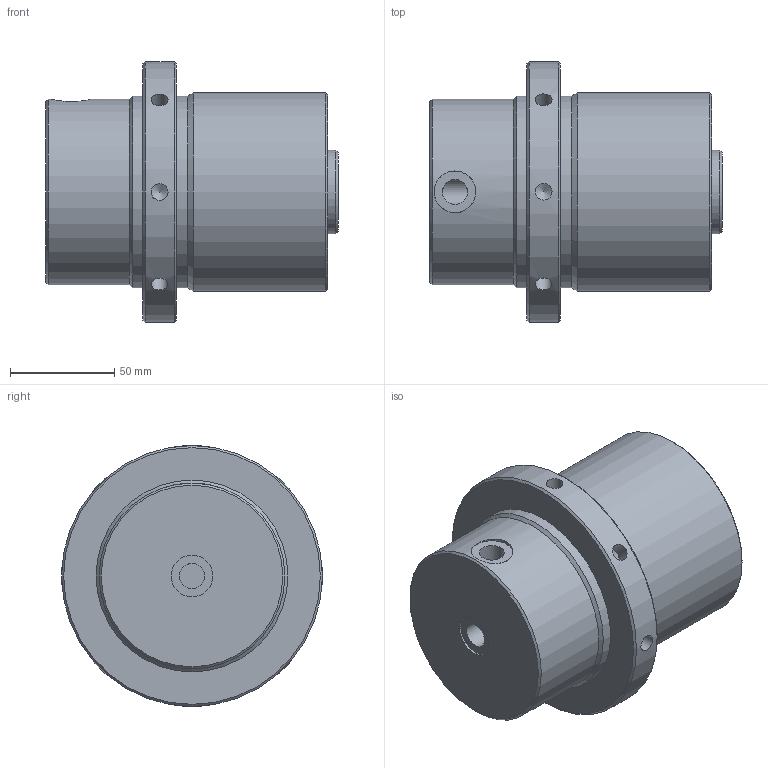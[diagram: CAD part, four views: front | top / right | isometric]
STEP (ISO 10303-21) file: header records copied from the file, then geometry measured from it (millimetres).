
FILE_DESCRIPTION( ( 'Unknown' ), '1' );
FILE_NAME( 'F:/JAKOB-STEP+IGES-Dateien/STEP-Dateien/ZSF/ZSF 6300.stp', 'Unknown', ( 'Unknown' ), ( 'Unknown' ), 'XStep 1.0', 'Unknown', ' ' );
FILE_SCHEMA( ( 'CONFIG_CONTROL_DESIGN' ) );
Length unit declared in the file: millimetre
Products named in the file (1): 1
Bounding box: 140 x 125 x 125 mm (x, y, z)
Volume: 961831 mm3; surface area: 74160.5 mm2
Topology: 1 solids, 1 shells, 44 faces, 109 edges, 70 vertices
Faces by surface type: cylinder 19, cone 17, plane 8
Full cylindrical faces by diameter (mm): 8 x8, 12 x2, 20 x2, 26.5 x1, 40 x1, 89 x1, 92 x2, 95 x1, 125 x1
Entity records: 1565 total; most frequent: CARTESIAN_POINT 758, DIRECTION 162, ORIENTED_EDGE 90, EDGE_LOOP 88, AXIS2_PLACEMENT_3D 81, FACE_OUTER_BOUND 63, VERTEX_POINT 54, EDGE_CURVE 45
